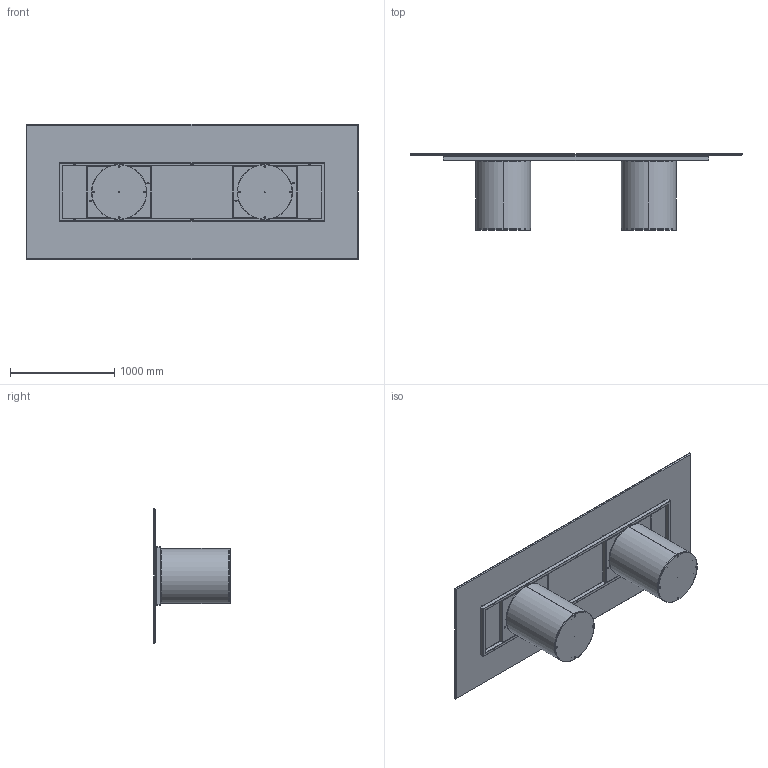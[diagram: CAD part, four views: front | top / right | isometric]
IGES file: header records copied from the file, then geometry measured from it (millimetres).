
Start section: SolidWorks IGES file using analytic representation for surfaces
Global section: file name: Y:\eforma\TECNICO\SOLIDWORKS\E-FORMA\1-TAVOLI\CILINDRO\02 parts\CI27C.IGS; native system: SolidWorks 2022; preprocessor: SolidWorks 2022; author: eforma.tech; date: 240808.091059; units: millimetre
Bounding box: 3190 x 736 x 1300 mm (x, y, z)
Volume: 80740000 mm3; surface area: 25764149 mm2
Topology: 39 solids, 39 shells, 988 faces, 2252 edges, 1300 vertices
Faces by surface type: revolution 532, plane 456
